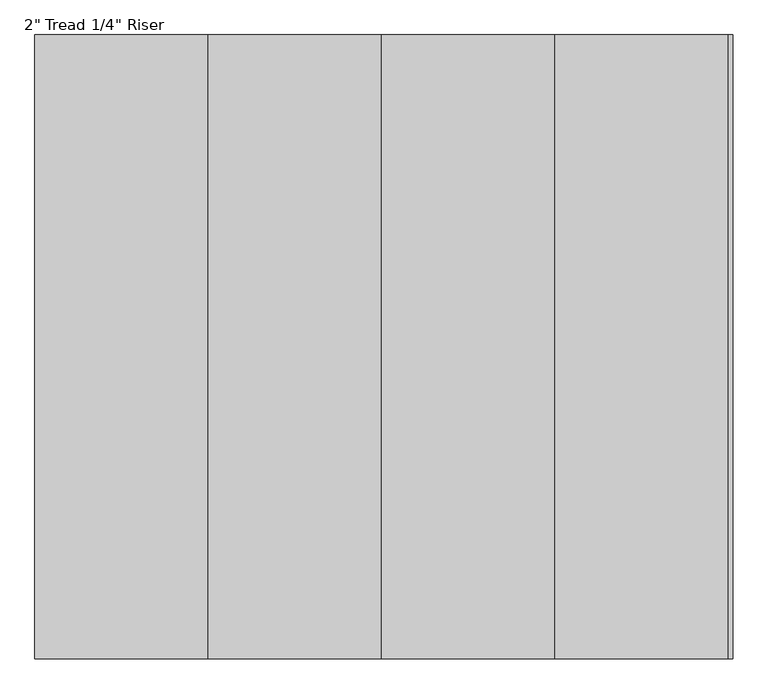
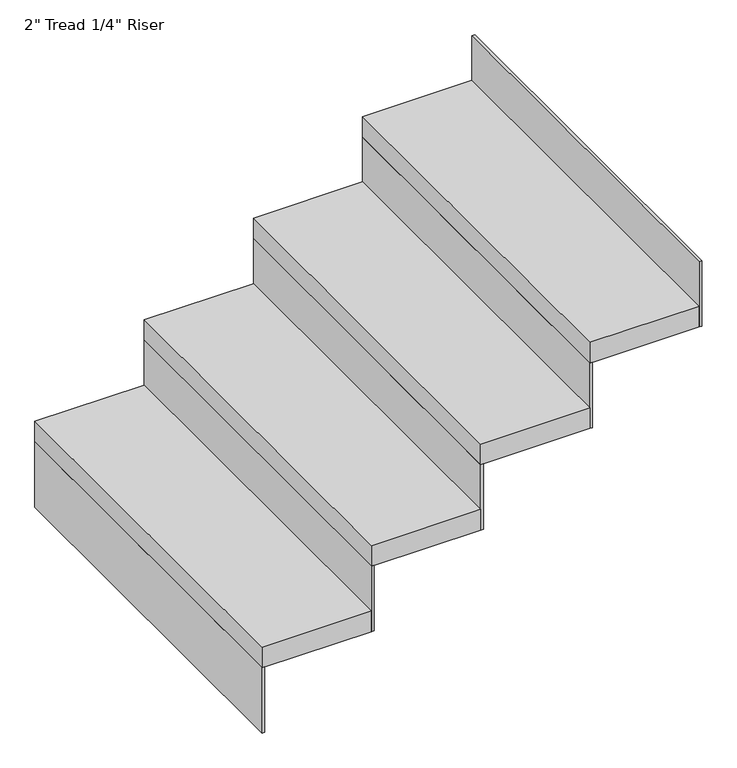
"""IFC4 building model written with IfcOpenShell, lengths in millimetres: stair flight geometry."""

import ifcopenshell
import ifcopenshell.guid

model = None  # the IFC model being written
_history = None  # IfcOwnerHistory: only IFC2X3 demands one
_inside = {}  # id of a spatial element -> (the spatial element, [elements in it])
_under = {}  # id of a project, library or spatial element -> (it, [spatial elements below it])
_declared = {}  # id of a project -> (the project, [libraries it declares])
_typed = {}  # id of a type object -> (the type object, [elements of that type])
_made_of = {}  # id of a material, layer set ... -> (it, [elements and type objects made of it])


def new_model(schema):
    """Start an empty IFC model of exactly this schema.

    Asked for "IFC4X3", IfcOpenShell would pick the latest addendum, in which some entities
    have other attributes; the version numbers below select the first issue.
    IFC2X3 requires an IfcOwnerHistory on every rooted entity: one is made here for all.
    """
    global model, _history
    if schema == "IFC4X3":
        model = ifcopenshell.file(schema_version=(4, 3, 0, 0))
    else:
        model = ifcopenshell.file(schema=schema)
    _inside.clear()
    _under.clear()
    _declared.clear()
    _typed.clear()
    _made_of.clear()
    _history = None
    if model.schema == "IFC2X3":
        org = make("IfcOrganization", Name="unknown")
        user = make(
            "IfcPersonAndOrganization",
            ThePerson=make("IfcPerson", FamilyName="unknown"),
            TheOrganization=org,
        )
        app = make(
            "IfcApplication",
            ApplicationDeveloper=org,
            Version="unknown",
            ApplicationFullName="unknown",
            ApplicationIdentifier="unknown",
        )
        _history = make(
            "IfcOwnerHistory",
            OwningUser=user,
            OwningApplication=app,
            ChangeAction="ADDED",
            CreationDate=0,
        )
    return model


def make(cls, **values):
    """One entity of the class cls with the attributes given. An attribute that is None is left unset."""
    return model.create_entity(
        cls, **{name: value for name, value in values.items() if value is not None}
    )


def rooted(cls, **values):
    """An entity with a GlobalId (a new one), such as an element, a storey or a relation."""
    return make(cls, GlobalId=ifcopenshell.guid.new(), OwnerHistory=_history, **values)


def si_unit(unit_type, name, prefix=None):
    """IfcSIUnit, for example si_unit("LENGTHUNIT", "METRE", prefix="MILLI")."""
    return make("IfcSIUnit", UnitType=unit_type, Prefix=prefix, Name=name)


def assignment(units):
    """IfcUnitAssignment: the units of a project."""
    return None if units is None else make("IfcUnitAssignment", Units=units)


def point(xyz):
    """IfcCartesianPoint."""
    return None if xyz is None else make("IfcCartesianPoint", Coordinates=xyz)


def direction(xyz):
    """IfcDirection."""
    return None if xyz is None else make("IfcDirection", DirectionRatios=xyz)


def frame(location, z_axis=None, x_axis=None):
    """IfcAxis2Placement3D, a coordinate frame: its origin and axes. An axis left out is left unset."""
    return make(
        "IfcAxis2Placement3D",
        Location=point(location),
        Axis=direction(z_axis),
        RefDirection=direction(x_axis),
    )


def origin():
    """The frame at (0, 0, 0) with its axes left unset."""
    return frame((0.0, 0.0, 0.0))


def place(relative_to, where):
    """IfcLocalPlacement: puts the frame where relative to a parent placement (None: the world)."""
    return make(
        "IfcLocalPlacement", PlacementRelTo=relative_to, RelativePlacement=where
    )


def context(
    kind, dimensions, precision=None, world=None, true_north=None, identifier=None
):
    """IfcGeometricRepresentationContext, for example the 3D "Model" context."""
    return make(
        "IfcGeometricRepresentationContext",
        ContextIdentifier=identifier,
        ContextType=kind,
        CoordinateSpaceDimension=dimensions,
        Precision=precision,
        WorldCoordinateSystem=world,
        TrueNorth=true_north,
    )


def project(units=None, contexts=None):
    """IfcProject with its units and contexts."""
    return rooted(
        "IfcProject",
        Name="project",
        RepresentationContexts=contexts,
        UnitsInContext=assignment(units),
    )


def spatial(cls, under=None, at=None, **own):
    """A site, building, storey or space (cls), placed at a placement, below another one or the project."""
    s = rooted(cls, ObjectPlacement=at, **own)
    if under is not None:
        _under.setdefault(under.id(), (under, []))[1].append(s)
    return s


def polyline(points):
    """IfcPolyline through the points."""
    return make("IfcPolyline", Points=[point(p) for p in points])


def outline(outer, holes=None, kind="AREA"):
    """IfcArbitraryClosedProfileDef: a profile drawn as a closed curve; with holes, ...WithVoids."""
    if holes is None:
        return make("IfcArbitraryClosedProfileDef", ProfileType=kind, OuterCurve=outer)
    return make(
        "IfcArbitraryProfileDefWithVoids",
        ProfileType=kind,
        OuterCurve=outer,
        InnerCurves=holes,
    )


def extrude(swept, where, along, depth):
    """IfcExtrudedAreaSolid: the profile swept, set in the frame where, extruded along a direction by depth."""
    return make(
        "IfcExtrudedAreaSolid",
        SweptArea=swept,
        Position=where,
        ExtrudedDirection=direction(along),
        Depth=depth,
    )


def shape(context_of_items, identifier, shape_type, items):
    """IfcShapeRepresentation: the items that make up one representation, for example the "Body"."""
    return make(
        "IfcShapeRepresentation",
        ContextOfItems=context_of_items,
        RepresentationIdentifier=identifier,
        RepresentationType=shape_type,
        Items=items,
    )


def source(mapping_origin, context_of_items, identifier, shape_type, items):
    """IfcRepresentationMap: a shape defined once, which mapped items show again and again."""
    return make(
        "IfcRepresentationMap",
        MappingOrigin=mapping_origin,
        MappedRepresentation=shape(context_of_items, identifier, shape_type, items),
    )


def transform(
    local_origin,
    x_axis=None,
    y_axis=None,
    z_axis=None,
    scale=None,
    scale2=None,
    scale3=None,
    uniform=True,
):
    """IfcCartesianTransformationOperator3D, or its non-uniform kind. x_axis, y_axis, z_axis: its Axis1, 2, 3."""
    if uniform:
        return make(
            "IfcCartesianTransformationOperator3D",
            Axis1=direction(x_axis),
            Axis2=direction(y_axis),
            LocalOrigin=point(local_origin),
            Scale=scale,
            Axis3=direction(z_axis),
        )
    return make(
        "IfcCartesianTransformationOperator3DnonUniform",
        Axis1=direction(x_axis),
        Axis2=direction(y_axis),
        LocalOrigin=point(local_origin),
        Scale=scale,
        Axis3=direction(z_axis),
        Scale2=scale2,
        Scale3=scale3,
    )


def mapped(mapping_source, mapping_target):
    """IfcMappedItem: shows the shape of a source again, moved by a transform."""
    return make(
        "IfcMappedItem", MappingSource=mapping_source, MappingTarget=mapping_target
    )


def made_of(thing, what):
    """Note that an element or type object is made of a material, layer set ...; save() writes the relation."""
    if what is not None:
        _made_of.setdefault(what.id(), (what, []))[1].append(thing)
    return thing


def element(
    cls,
    number,
    at=None,
    inside=None,
    cuts=None,
    type_object=None,
    material=None,
    context=None,
    identifier="Body",
    shape_type=None,
    held_by="IfcProductDefinitionShape",
    body=None,
    shapes=None,
    **own,
):
    """One element of the class cls, such as IfcWall. Its Tag is "e" and its number.

    at: its placement. inside: the storey or other place that contains it. cuts: it is an
    opening in that element (IfcRelVoidsElement). A single representation is given by context,
    identifier, shape_type and body (its items); several are given by shapes. held_by: the class
    of the entity that holds the representations. save() writes the other relations.
    """
    e = rooted(cls, Tag="e%d" % number, ObjectPlacement=at, **own)
    if body is not None:
        shapes = [shape(context, identifier, shape_type, body)]
    if shapes is not None:
        e.Representation = make(held_by, Representations=shapes)
    if inside is not None:
        _inside.setdefault(inside.id(), (inside, []))[1].append(e)
    if cuts is not None:
        rooted(
            "IfcRelVoidsElement", RelatingBuildingElement=cuts, RelatedOpeningElement=e
        )
    if type_object is not None:
        _typed.setdefault(type_object.id(), (type_object, []))[1].append(e)
    return made_of(e, material)


def aggregate(whole, parts):
    """IfcRelAggregates: a whole, such as a stair, and the parts it consists of."""
    return rooted("IfcRelAggregates", RelatingObject=whole, RelatedObjects=parts)


def save(model, path):
    """Write the relations noted so far, then the file.

    IfcRelAggregates (storeys below a building ...), IfcRelContainedInSpatialStructure (elements
    in a storey), IfcRelDefinesByType, IfcRelAssociatesMaterial and IfcRelDeclares: one each for
    every whole, place, type object, material and project.
    """
    for whole, parts in _under.values():
        aggregate(whole, parts)
    for where, things in _inside.values():
        rooted(
            "IfcRelContainedInSpatialStructure",
            RelatedElements=things,
            RelatingStructure=where,
        )
    for kind, things in _typed.values():
        rooted("IfcRelDefinesByType", RelatedObjects=things, RelatingType=kind)
    for what, things in _made_of.values():
        rooted("IfcRelAssociatesMaterial", RelatedObjects=things, RelatingMaterial=what)
    for by, libraries in _declared.values():
        rooted("IfcRelDeclares", RelatingContext=by, RelatedDefinitions=libraries)
    model.write(path)


def stair_flight_7da9959f(model_context):
    return source(origin(), model_context, "Body", "SweptSolid", [
        extrude(outline(polyline([(139684.2444894, -35451.4428514), (139677.8944894, -35451.4428514), (139677.8944894, -34537.0428514), (139684.2444894, -34537.0428514), (139684.2444894, -35451.4428514)])), frame((0.0, 0.0, 2195.0947368), z_axis=(0.0, 0.0, 1.0), x_axis=(1.0, 0.0, 0.0)), (0.0, 0.0, 1.0), 160.4210526),
        extrude(outline(polyline([(139931.8944894, -34537.0428514), (139931.8944894, -35451.4428514), (139677.8944894, -35451.4428514), (139677.8944894, -34537.0428514), (139931.8944894, -34537.0428514)])), frame((0.0, 0.0, 2355.5157895), z_axis=(0.0, 0.0, 1.0), x_axis=(1.0, 0.0, 0.0)), (0.0, 0.0, 1.0), 50.8),
        extrude(outline(polyline([(139938.2444894, -35451.4428514), (139931.8944894, -35451.4428514), (139931.8944894, -34537.0428514), (139938.2444894, -34537.0428514), (139938.2444894, -35451.4428514)])), frame((0.0, 0.0, 2355.5157895), z_axis=(0.0, 0.0, 1.0), x_axis=(1.0, 0.0, 0.0)), (0.0, 0.0, 1.0), 160.4210526),
        extrude(outline(polyline([(140185.8944894, -34537.0428514), (140185.8944894, -35451.4428514), (139931.8944894, -35451.4428514), (139931.8944894, -34537.0428514), (140185.8944894, -34537.0428514)])), frame((0.0, 0.0, 2515.9368421), z_axis=(0.0, 0.0, 1.0), x_axis=(1.0, 0.0, 0.0)), (0.0, 0.0, 1.0), 50.8),
        extrude(outline(polyline([(140192.2444894, -35451.4428514), (140185.8944894, -35451.4428514), (140185.8944894, -34537.0428514), (140192.2444894, -34537.0428514), (140192.2444894, -35451.4428514)])), frame((0.0, 0.0, 2515.9368421), z_axis=(0.0, 0.0, 1.0), x_axis=(1.0, 0.0, 0.0)), (0.0, 0.0, 1.0), 160.4210526),
        extrude(outline(polyline([(140439.8944894, -34537.0428514), (140439.8944894, -35451.4428514), (140185.8944894, -35451.4428514), (140185.8944894, -34537.0428514), (140439.8944894, -34537.0428514)])), frame((0.0, 0.0, 2676.3578947), z_axis=(0.0, 0.0, 1.0), x_axis=(1.0, 0.0, 0.0)), (0.0, 0.0, 1.0), 50.8),
        extrude(outline(polyline([(140446.2444894, -35451.4428514), (140439.8944894, -35451.4428514), (140439.8944894, -34537.0428514), (140446.2444894, -34537.0428514), (140446.2444894, -35451.4428514)])), frame((0.0, 0.0, 2676.3578947), z_axis=(0.0, 0.0, 1.0), x_axis=(1.0, 0.0, 0.0)), (0.0, 0.0, 1.0), 160.4210526),
        extrude(outline(polyline([(140700.2444894, -35451.4428514), (140693.8944894, -35451.4428514), (140693.8944894, -34537.0428514), (140700.2444894, -34537.0428514), (140700.2444894, -35451.4428514)])), frame((0.0, 0.0, 2836.7789474), z_axis=(0.0, 0.0, 1.0), x_axis=(1.0, 0.0, 0.0)), (0.0, 0.0, 1.0), 160.4210526),
        extrude(outline(polyline([(140693.8944894, -34537.0428514), (140693.8944894, -35451.4428514), (140439.8944894, -35451.4428514), (140439.8944894, -34537.0428514), (140693.8944894, -34537.0428514)])), frame((0.0, 0.0, 2836.7789474), z_axis=(0.0, 0.0, 1.0), x_axis=(1.0, 0.0, 0.0)), (0.0, 0.0, 1.0), 50.8),
    ])


if __name__ == "__main__":
    model = new_model("IFC4")
    model_context = context("Model", 3, world=origin())
    ifc_project = project(units=[si_unit("LENGTHUNIT", "METRE", prefix="MILLI")], contexts=[model_context])
    site = spatial("IfcSite", under=ifc_project)
    building = spatial("IfcBuilding", under=site)
    placement = place(None, origin())
    stair_flight_shape = stair_flight_7da9959f(model_context)
    element("IfcStairFlight", 1, ObjectType="2\" Tread 1/4\" Riser", at=placement, inside=building, context=model_context, shape_type="MappedRepresentation", body=[
        mapped(stair_flight_shape, transform((0.0, 0.0, 0.0), x_axis=(1.0, 0.0, 0.0), y_axis=(0.0, 1.0, 0.0), z_axis=(0.0, 0.0, 1.0))),
    ])
    save(model, "model.ifc")
